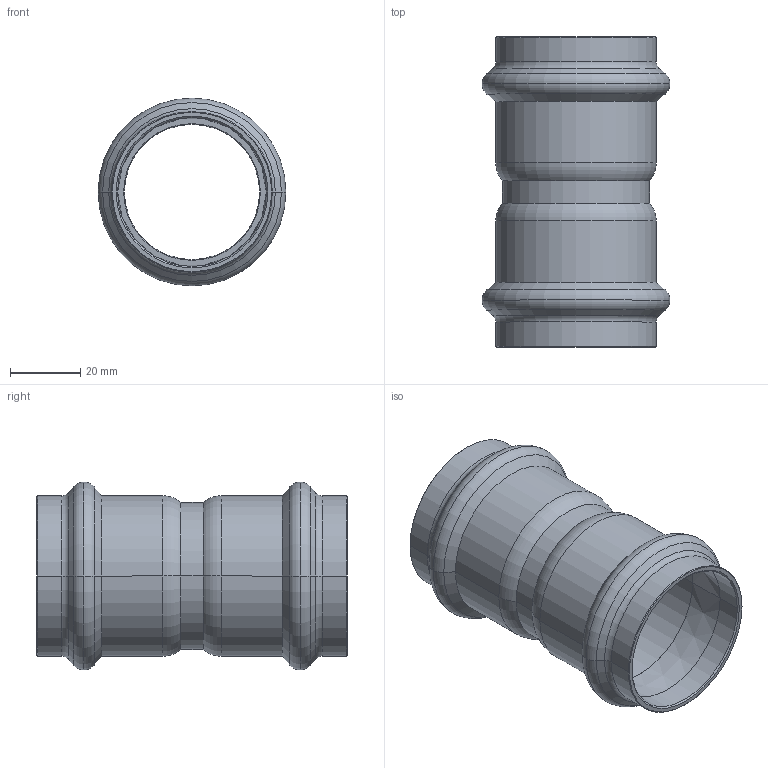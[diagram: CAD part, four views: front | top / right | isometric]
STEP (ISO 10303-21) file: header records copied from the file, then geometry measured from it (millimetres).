
FILE_DESCRIPTION(('CoCreate Modeling STEP Export'),'2;1');
FILE_NAME('8270VW42.stp','2013-01-29T11:59:03',(''),(''),'CoCreate Modeling STEP processor for AP214 (Solid Model)','CoCreate Modeling 17.00A 17-Jun-2010 (C) Parametric Technology GmbH','');
FILE_SCHEMA(('AUTOMOTIVE_DESIGN { 1 0 10303 214 1 1 1 1 }'));
Length unit declared in the file: millimetre
Products named in the file (1): 8270VW42
Bounding box: 53.61 x 88.58 x 53.61 mm (x, y, z)
Volume: 29256 mm3; surface area: 27039.4 mm2
Topology: 1 solids, 1 shells, 78 faces, 158 edges, 86 vertices
Faces by surface type: torus 28, cylinder 24, cone 20, plane 6
Entity records: 1648 total; most frequent: ORIENTED_EDGE 316, DIRECTION 266, CARTESIAN_POINT 241, EDGE_CURVE 158, AXIS2_PLACEMENT_3D 111, VERTEX_POINT 86, EDGE_LOOP 84, FACE_OUTER_BOUND 78
